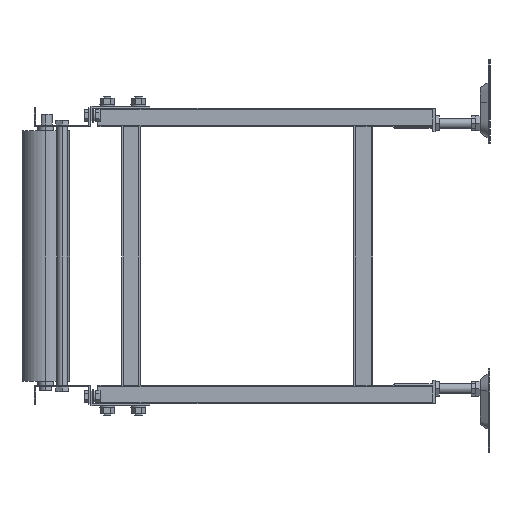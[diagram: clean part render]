
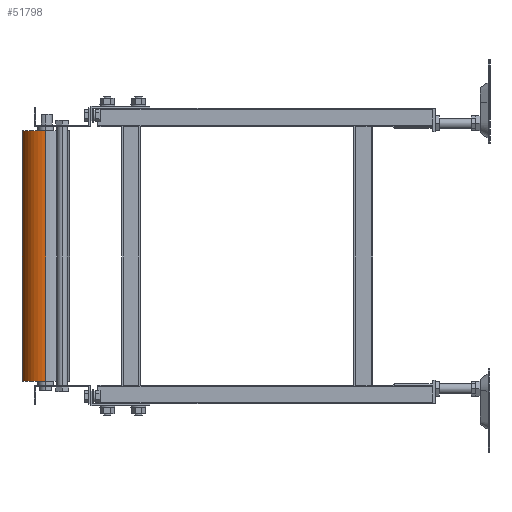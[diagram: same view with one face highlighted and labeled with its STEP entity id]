
A CAD part, left-side view. The second image highlights one B-rep face of the part: STEP entity #51798.
In plain terms, the highlighted cylindrical face has radius 38.15 mm (diameter 76.3 mm), a partial arc.
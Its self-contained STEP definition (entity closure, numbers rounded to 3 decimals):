
#1399 = LINE ( 'NONE', #40461, #56079 ) ;
#1490 = DIRECTION ( 'NONE',  ( 0., 0., -1. ) ) ;
#2017 = DIRECTION ( 'NONE',  ( 0., 0., -1. ) ) ;
#2158 = CARTESIAN_POINT ( 'NONE',  ( -2885.15, -38.15, -230.422 ) ) ;
#2687 = FACE_OUTER_BOUND ( 'NONE', #53963, .T. ) ;
#2787 = CIRCLE ( 'NONE', #44891, 38.15 ) ;
#6931 = CYLINDRICAL_SURFACE ( 'NONE', #22816, 38.15 ) ;
#8138 = VERTEX_POINT ( 'NONE', #21299 ) ;
#9685 = ORIENTED_EDGE ( 'NONE', *, *, #46740, .T. ) ;
#12070 = VERTEX_POINT ( 'NONE', #32327 ) ;
#17631 = CARTESIAN_POINT ( 'NONE',  ( -2885.15, -38.15, 200.5 ) ) ;
#17932 = EDGE_CURVE ( 'NONE', #25994, #33473, #34797, .T. ) ;
#20058 = DIRECTION ( 'NONE',  ( -1., 0., 0. ) ) ;
#21299 = CARTESIAN_POINT ( 'NONE',  ( -2885.15, -38.15, -200.5 ) ) ;
#22816 = AXIS2_PLACEMENT_3D ( 'NONE', #24085, #1490, #28062 ) ;
#24085 = CARTESIAN_POINT ( 'NONE',  ( -2847., -38.15, -230.422 ) ) ;
#24344 = EDGE_CURVE ( 'NONE', #25994, #8138, #55560, .T. ) ;
#25994 = VERTEX_POINT ( 'NONE', #17631 ) ;
#28062 = DIRECTION ( 'NONE',  ( -1., 0., 0. ) ) ;
#29471 = DIRECTION ( 'NONE',  ( -1., 0., 0. ) ) ;
#29667 = DIRECTION ( 'NONE',  ( 0., 0., -1. ) ) ;
#32327 = CARTESIAN_POINT ( 'NONE',  ( -2808.85, -38.15, -200.5 ) ) ;
#33473 = VERTEX_POINT ( 'NONE', #37504 ) ;
#33860 = DIRECTION ( 'NONE',  ( 0., 0., -1. ) ) ;
#34797 = CIRCLE ( 'NONE', #40903, 38.15 ) ;
#35588 = ORIENTED_EDGE ( 'NONE', *, *, #24344, .F. ) ;
#35725 = DIRECTION ( 'NONE',  ( 0., 0., -1. ) ) ;
#36261 = EDGE_CURVE ( 'NONE', #8138, #12070, #2787, .T. ) ;
#37504 = CARTESIAN_POINT ( 'NONE',  ( -2808.85, -38.15, 200.5 ) ) ;
#40461 = CARTESIAN_POINT ( 'NONE',  ( -2808.85, -38.15, -230.422 ) ) ;
#40903 = AXIS2_PLACEMENT_3D ( 'NONE', #56796, #2017, #20058 ) ;
#42601 = ORIENTED_EDGE ( 'NONE', *, *, #17932, .T. ) ;
#44891 = AXIS2_PLACEMENT_3D ( 'NONE', #56710, #29667, #29471 ) ;
#46740 = EDGE_CURVE ( 'NONE', #33473, #12070, #1399, .T. ) ;
#46995 = VECTOR ( 'NONE', #33860, 1000. ) ;
#47425 = ORIENTED_EDGE ( 'NONE', *, *, #36261, .F. ) ;
#51798 = ADVANCED_FACE ( 'NONE', ( #2687 ), #6931, .T. ) ;
#53963 = EDGE_LOOP ( 'NONE', ( #42601, #9685, #47425, #35588 ) ) ;
#55560 = LINE ( 'NONE', #2158, #46995 ) ;
#56079 = VECTOR ( 'NONE', #35725, 1000. ) ;
#56710 = CARTESIAN_POINT ( 'NONE',  ( -2847., -38.15, -200.5 ) ) ;
#56796 = CARTESIAN_POINT ( 'NONE',  ( -2847., -38.15, 200.5 ) ) ;
